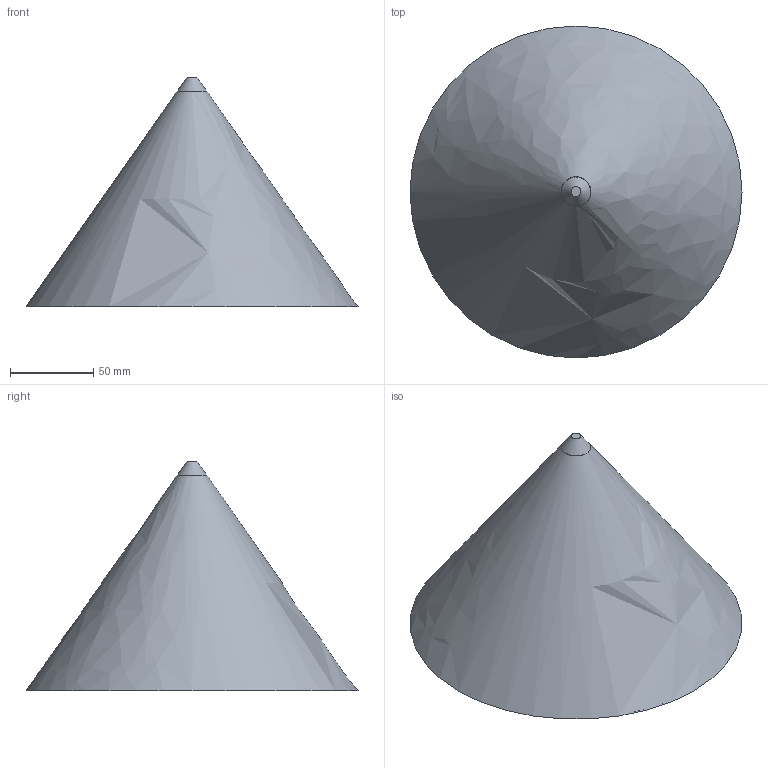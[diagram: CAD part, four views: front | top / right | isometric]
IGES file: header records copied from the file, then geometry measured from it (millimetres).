
Start section: SolidWorks IGES file using analytic representation for surfaces
Global section: file name: X:\PRODUKT\Modele 3D_WWW\_CAMELEON\KLOSZE I OPRAWY WWW\CAMELEON-ZENITH\CAMELEON-ZENITH-S-8065-8068-10197\CAMELEON-ZENITH-S-8065-8068-10197.IGS; native system: SolidWorks 2021; preprocessor: SolidWorks 2021; author: gabriela.tworek; date: 220819.111059; units: millimetre
Bounding box: 200 x 200 x 138.31 mm (x, y, z)
Surface area: 109433.8 mm2 (no closed solid volume)
Topology: 0 solids, 0 shells, 11 faces, 26 edges, 21 vertices
Faces by surface type: bspline 6, revolution 5
